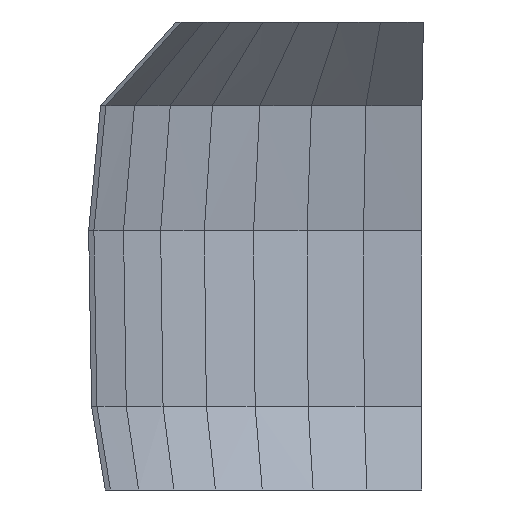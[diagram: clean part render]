
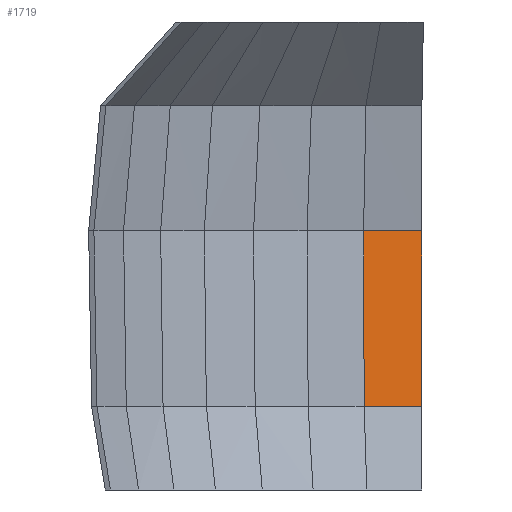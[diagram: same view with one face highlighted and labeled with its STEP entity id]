
A CAD part, front view. The second image highlights one B-rep face of the part: STEP entity #1719.
In plain terms, the highlighted free-form (B-spline) face has degree [1, 1] with [2, 2] control points.
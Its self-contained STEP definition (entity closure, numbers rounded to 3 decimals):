
#629 = VERTEX_POINT('',#630);
#630 = CARTESIAN_POINT('',(-3.848,198.47,165.));
#643 = B_SPLINE_SURFACE_WITH_KNOTS('',1,1,(
    (#644,#645)
    ,(#646,#647
    )),.UNSPECIFIED.,.F.,.F.,.F.,(2,2),(2,2),(0.,34.57),(0.,1.
    ),.PIECEWISE_BEZIER_KNOTS.);
#644 = CARTESIAN_POINT('',(-3.691,180.473,115.));
#645 = CARTESIAN_POINT('',(-3.848,198.47,165.));
#646 = CARTESIAN_POINT('',(-36.727,177.758,115.));
#647 = CARTESIAN_POINT('',(-38.289,195.484,165.));
#669 = B_SPLINE_SURFACE_WITH_KNOTS('',1,1,(
    (#670,#671)
    ,(#672,#673
  )),.UNSPECIFIED.,.F.,.F.,.F.,(2,2),(2,2),(0.,3.5),(0.,1.),
  .PIECEWISE_BEZIER_KNOTS.);
#670 = CARTESIAN_POINT('',(-3.909,201.969,165.));
#671 = CARTESIAN_POINT('',(-3.944,204.969,270.));
#672 = CARTESIAN_POINT('',(-3.848,198.47,165.));
#673 = CARTESIAN_POINT('',(-3.883,201.469,270.));
#708 = VERTEX_POINT('',#709);
#709 = CARTESIAN_POINT('',(-38.289,195.484,165.));
#734 = EDGE_CURVE('',#629,#708,#735,.T.);
#735 = SURFACE_CURVE('',#736,(#740,#747),.PCURVE_S1.);
#736 = LINE('',#737,#738);
#737 = CARTESIAN_POINT('',(-3.848,198.47,165.));
#738 = VECTOR('',#739,1.);
#739 = DIRECTION('',(-0.996,-0.086,0.));
#740 = PCURVE('',#643,#741);
#741 = DEFINITIONAL_REPRESENTATION('',(#742),#746);
#742 = LINE('',#743,#744);
#743 = CARTESIAN_POINT('',(0.,1.));
#744 = VECTOR('',#745,1.);
#745 = DIRECTION('',(1.,0.));
#746 = ( GEOMETRIC_REPRESENTATION_CONTEXT(2) 
PARAMETRIC_REPRESENTATION_CONTEXT() REPRESENTATION_CONTEXT('2D SPACE',''
  ) );
#747 = PCURVE('',#748,#753);
#748 = B_SPLINE_SURFACE_WITH_KNOTS('',1,1,(
    (#749,#750)
    ,(#751,#752
    )),.UNSPECIFIED.,.F.,.F.,.F.,(2,2),(2,2),(0.,34.885),(0.,1.
    ),.PIECEWISE_BEZIER_KNOTS.);
#749 = CARTESIAN_POINT('',(-3.848,198.47,165.));
#750 = CARTESIAN_POINT('',(-3.883,201.469,270.));
#751 = CARTESIAN_POINT('',(-38.289,195.484,165.));
#752 = CARTESIAN_POINT('',(-38.637,198.439,270.));
#753 = DEFINITIONAL_REPRESENTATION('',(#754),#757);
#754 = B_SPLINE_CURVE_WITH_KNOTS('',1,(#755,#756),.UNSPECIFIED.,.F.,.F.,
  (2,2),(0.,34.57),.PIECEWISE_BEZIER_KNOTS.);
#755 = CARTESIAN_POINT('',(0.,0.));
#756 = CARTESIAN_POINT('',(34.885,0.));
#757 = ( GEOMETRIC_REPRESENTATION_CONTEXT(2) 
PARAMETRIC_REPRESENTATION_CONTEXT() REPRESENTATION_CONTEXT('2D SPACE',''
  ) );
#826 = B_SPLINE_SURFACE_WITH_KNOTS('',1,1,(
    (#827,#828)
    ,(#829,#830
    )),.UNSPECIFIED.,.F.,.F.,.F.,(2,2),(2,2),(0.,34.717),(0.,1.
    ),.PIECEWISE_BEZIER_KNOTS.);
#827 = CARTESIAN_POINT('',(-38.289,195.484,165.));
#828 = CARTESIAN_POINT('',(-38.637,198.439,270.));
#829 = CARTESIAN_POINT('',(-71.788,187.685,165.));
#830 = CARTESIAN_POINT('',(-72.439,190.522,270.));
#1671 = EDGE_CURVE('',#629,#1672,#1674,.T.);
#1672 = VERTEX_POINT('',#1673);
#1673 = CARTESIAN_POINT('',(-3.883,201.469,270.));
#1674 = SURFACE_CURVE('',#1675,(#1678,#1685),.PCURVE_S1.);
#1675 = B_SPLINE_CURVE_WITH_KNOTS('',1,(#1676,#1677),.UNSPECIFIED.,.F.,
  .F.,(2,2),(0.,1.),.PIECEWISE_BEZIER_KNOTS.);
#1676 = CARTESIAN_POINT('',(-3.848,198.47,165.));
#1677 = CARTESIAN_POINT('',(-3.883,201.469,270.));
#1678 = PCURVE('',#669,#1679);
#1679 = DEFINITIONAL_REPRESENTATION('',(#1680),#1684);
#1680 = LINE('',#1681,#1682);
#1681 = CARTESIAN_POINT('',(3.5,0.));
#1682 = VECTOR('',#1683,1.);
#1683 = DIRECTION('',(0.,1.));
#1684 = ( GEOMETRIC_REPRESENTATION_CONTEXT(2) 
PARAMETRIC_REPRESENTATION_CONTEXT() REPRESENTATION_CONTEXT('2D SPACE',''
  ) );
#1685 = PCURVE('',#748,#1686);
#1686 = DEFINITIONAL_REPRESENTATION('',(#1687),#1691);
#1687 = LINE('',#1688,#1689);
#1688 = CARTESIAN_POINT('',(0.,0.));
#1689 = VECTOR('',#1690,1.);
#1690 = DIRECTION('',(0.,1.));
#1691 = ( GEOMETRIC_REPRESENTATION_CONTEXT(2) 
PARAMETRIC_REPRESENTATION_CONTEXT() REPRESENTATION_CONTEXT('2D SPACE',''
  ) );
#1719 = ADVANCED_FACE('',(#1720),#748,.F.);
#1720 = FACE_BOUND('',#1721,.F.);
#1721 = EDGE_LOOP('',(#1722,#1723,#1745,#1771));
#1722 = ORIENTED_EDGE('',*,*,#734,.T.);
#1723 = ORIENTED_EDGE('',*,*,#1724,.T.);
#1724 = EDGE_CURVE('',#708,#1725,#1727,.T.);
#1725 = VERTEX_POINT('',#1726);
#1726 = CARTESIAN_POINT('',(-38.637,198.439,270.));
#1727 = SURFACE_CURVE('',#1728,(#1731,#1738),.PCURVE_S1.);
#1728 = B_SPLINE_CURVE_WITH_KNOTS('',1,(#1729,#1730),.UNSPECIFIED.,.F.,
  .F.,(2,2),(0.,1.),.PIECEWISE_BEZIER_KNOTS.);
#1729 = CARTESIAN_POINT('',(-38.289,195.484,165.));
#1730 = CARTESIAN_POINT('',(-38.637,198.439,270.));
#1731 = PCURVE('',#748,#1732);
#1732 = DEFINITIONAL_REPRESENTATION('',(#1733),#1737);
#1733 = LINE('',#1734,#1735);
#1734 = CARTESIAN_POINT('',(34.885,0.));
#1735 = VECTOR('',#1736,1.);
#1736 = DIRECTION('',(0.,1.));
#1737 = ( GEOMETRIC_REPRESENTATION_CONTEXT(2) 
PARAMETRIC_REPRESENTATION_CONTEXT() REPRESENTATION_CONTEXT('2D SPACE',''
  ) );
#1738 = PCURVE('',#826,#1739);
#1739 = DEFINITIONAL_REPRESENTATION('',(#1740),#1744);
#1740 = LINE('',#1741,#1742);
#1741 = CARTESIAN_POINT('',(0.,0.));
#1742 = VECTOR('',#1743,1.);
#1743 = DIRECTION('',(0.,1.));
#1744 = ( GEOMETRIC_REPRESENTATION_CONTEXT(2) 
PARAMETRIC_REPRESENTATION_CONTEXT() REPRESENTATION_CONTEXT('2D SPACE',''
  ) );
#1745 = ORIENTED_EDGE('',*,*,#1746,.F.);
#1746 = EDGE_CURVE('',#1672,#1725,#1747,.T.);
#1747 = SURFACE_CURVE('',#1748,(#1752,#1759),.PCURVE_S1.);
#1748 = LINE('',#1749,#1750);
#1749 = CARTESIAN_POINT('',(-3.883,201.469,270.));
#1750 = VECTOR('',#1751,1.);
#1751 = DIRECTION('',(-0.996,-0.087,0.));
#1752 = PCURVE('',#748,#1753);
#1753 = DEFINITIONAL_REPRESENTATION('',(#1754),#1758);
#1754 = LINE('',#1755,#1756);
#1755 = CARTESIAN_POINT('',(0.,1.));
#1756 = VECTOR('',#1757,1.);
#1757 = DIRECTION('',(1.,0.));
#1758 = ( GEOMETRIC_REPRESENTATION_CONTEXT(2) 
PARAMETRIC_REPRESENTATION_CONTEXT() REPRESENTATION_CONTEXT('2D SPACE',''
  ) );
#1759 = PCURVE('',#1760,#1765);
#1760 = B_SPLINE_SURFACE_WITH_KNOTS('',1,1,(
    (#1761,#1762)
    ,(#1763,#1764
    )),.UNSPECIFIED.,.F.,.F.,.F.,(2,2),(2,2),(0.,34.885),(0.,1.
    ),.PIECEWISE_BEZIER_KNOTS.);
#1761 = CARTESIAN_POINT('',(-3.883,201.469,270.));
#1762 = CARTESIAN_POINT('',(-3.744,188.471,345.));
#1763 = CARTESIAN_POINT('',(-38.637,198.439,270.));
#1764 = CARTESIAN_POINT('',(-37.248,185.636,345.));
#1765 = DEFINITIONAL_REPRESENTATION('',(#1766),#1770);
#1766 = LINE('',#1767,#1768);
#1767 = CARTESIAN_POINT('',(0.,0.));
#1768 = VECTOR('',#1769,1.);
#1769 = DIRECTION('',(1.,0.));
#1770 = ( GEOMETRIC_REPRESENTATION_CONTEXT(2) 
PARAMETRIC_REPRESENTATION_CONTEXT() REPRESENTATION_CONTEXT('2D SPACE',''
  ) );
#1771 = ORIENTED_EDGE('',*,*,#1671,.F.);
